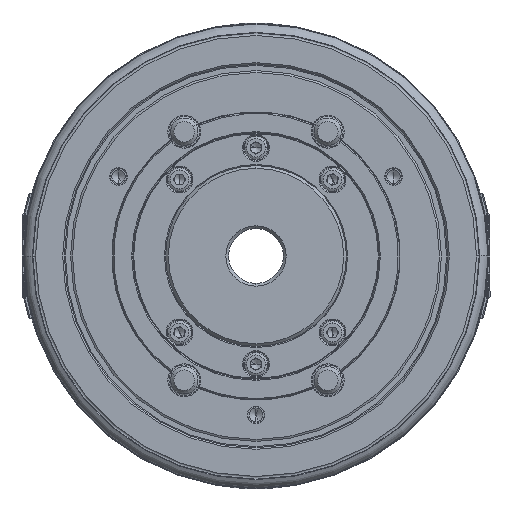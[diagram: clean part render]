
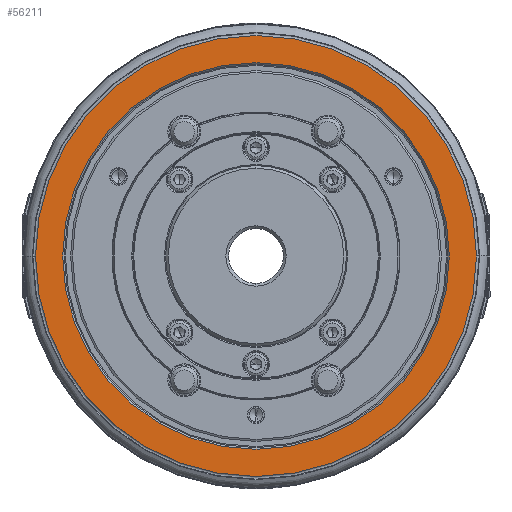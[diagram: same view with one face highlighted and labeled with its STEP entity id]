
A CAD part, left-side view. The second image highlights one B-rep face of the part: STEP entity #56211.
In plain terms, the highlighted planar face has unit normal (-1, 0, 0).
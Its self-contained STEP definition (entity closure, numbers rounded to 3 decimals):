
#205 = CARTESIAN_POINT ( 'NONE',  ( -81., 0., 0. ) ) ;
#829 = EDGE_LOOP ( 'NONE', ( #25513, #15869 ) ) ;
#3530 = AXIS2_PLACEMENT_3D ( 'NONE', #73925, #10656, #44574 ) ;
#4217 = ORIENTED_EDGE ( 'NONE', *, *, #24328, .F. ) ;
#6071 = FACE_OUTER_BOUND ( 'NONE', #43897, .T. ) ;
#6354 = CIRCLE ( 'NONE', #61121, 80.5 ) ;
#6735 = VERTEX_POINT ( 'NONE', #32148 ) ;
#7088 = DIRECTION ( 'NONE',  ( 1., 0., 0. ) ) ;
#10656 = DIRECTION ( 'NONE',  ( 1., 0., 0. ) ) ;
#15869 = ORIENTED_EDGE ( 'NONE', *, *, #59477, .T. ) ;
#17864 = AXIS2_PLACEMENT_3D ( 'NONE', #205, #40956, #64976 ) ;
#17875 = DIRECTION ( 'NONE',  ( 0., 0., 1. ) ) ;
#19464 = EDGE_CURVE ( 'NONE', #6735, #30880, #48266, .T. ) ;
#20815 = CARTESIAN_POINT ( 'NONE',  ( -81., 0., -70.6 ) ) ;
#22892 = CARTESIAN_POINT ( 'NONE',  ( -81., 80.5, 0. ) ) ;
#22996 = CIRCLE ( 'NONE', #3530, 70.6 ) ;
#23579 = EDGE_CURVE ( 'NONE', #60943, #51741, #6354, .T. ) ;
#24328 = EDGE_CURVE ( 'NONE', #51741, #60943, #40534, .T. ) ;
#25513 = ORIENTED_EDGE ( 'NONE', *, *, #19464, .T. ) ;
#25903 = CARTESIAN_POINT ( 'NONE',  ( -81., 0., 0. ) ) ;
#26644 = DIRECTION ( 'NONE',  ( 0., 1., 0. ) ) ;
#28558 = FACE_BOUND ( 'NONE', #829, .T. ) ;
#29297 = DIRECTION ( 'NONE',  ( -1., 0., 0. ) ) ;
#30311 = DIRECTION ( 'NONE',  ( 0., 1., 0. ) ) ;
#30880 = VERTEX_POINT ( 'NONE', #20815 ) ;
#32148 = CARTESIAN_POINT ( 'NONE',  ( -81., 0., 70.6 ) ) ;
#35380 = CARTESIAN_POINT ( 'NONE',  ( -81., 0., -70.6 ) ) ;
#40347 = PLANE ( 'NONE',  #64908 ) ;
#40534 = CIRCLE ( 'NONE', #61222, 80.5 ) ;
#40956 = DIRECTION ( 'NONE',  ( 1., 0., 0. ) ) ;
#43897 = EDGE_LOOP ( 'NONE', ( #4217, #48116 ) ) ;
#44181 = DIRECTION ( 'NONE',  ( 1., 0., 0. ) ) ;
#44574 = DIRECTION ( 'NONE',  ( 0., 0., -1. ) ) ;
#48116 = ORIENTED_EDGE ( 'NONE', *, *, #23579, .F. ) ;
#48266 = CIRCLE ( 'NONE', #17864, 70.6 ) ;
#51741 = VERTEX_POINT ( 'NONE', #22892 ) ;
#56211 = ADVANCED_FACE ( 'NONE', ( #6071, #28558 ), #40347, .T. ) ;
#59284 = CARTESIAN_POINT ( 'NONE',  ( -81., 0., 0. ) ) ;
#59477 = EDGE_CURVE ( 'NONE', #30880, #6735, #22996, .T. ) ;
#60943 = VERTEX_POINT ( 'NONE', #69634 ) ;
#61121 = AXIS2_PLACEMENT_3D ( 'NONE', #25903, #44181, #26644 ) ;
#61222 = AXIS2_PLACEMENT_3D ( 'NONE', #59284, #7088, #30311 ) ;
#64908 = AXIS2_PLACEMENT_3D ( 'NONE', #35380, #29297, #17875 ) ;
#64976 = DIRECTION ( 'NONE',  ( 0., 0., -1. ) ) ;
#69634 = CARTESIAN_POINT ( 'NONE',  ( -81., -80.5, 0. ) ) ;
#73925 = CARTESIAN_POINT ( 'NONE',  ( -81., 0., 0. ) ) ;
